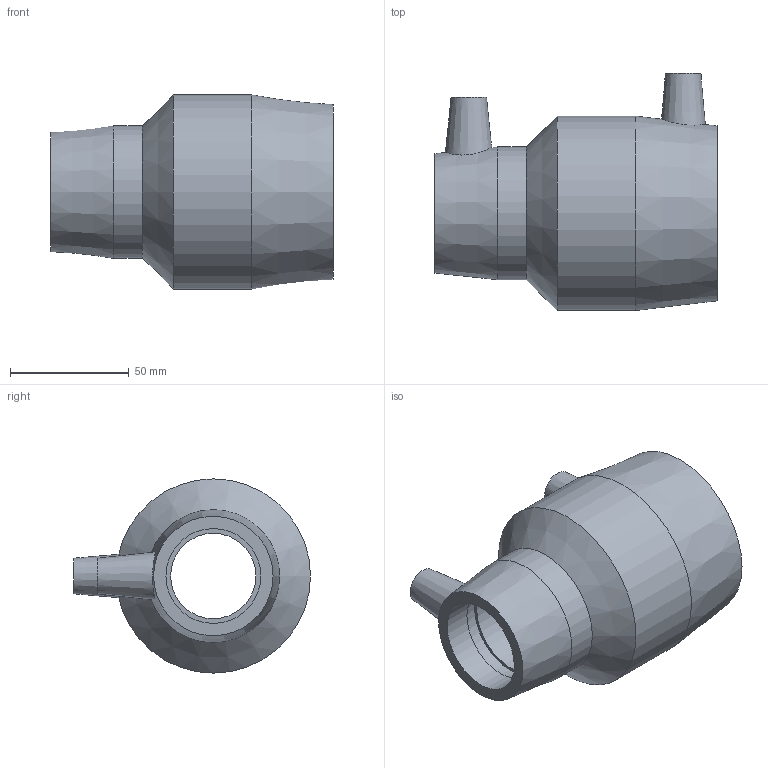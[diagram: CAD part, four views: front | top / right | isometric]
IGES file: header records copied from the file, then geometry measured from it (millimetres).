
Global section: file name: 491104063040.ipt; native system: Autodesk Inventor 2015; preprocessor: unknown; author: KIM; date: 20171106.093723; units: millimetre
Bounding box: 119 x 100 x 82 mm (x, y, z)
Volume: 214205.8 mm3; surface area: 54060 mm2
Topology: 1 solids, 1 shells, 31 faces, 72 edges, 51 vertices
Faces by surface type: plane 12, revolution 10, cone 5, cylinder 4
Full cylindrical faces by diameter (mm): 4 x2, 56 x1, 82 x1
